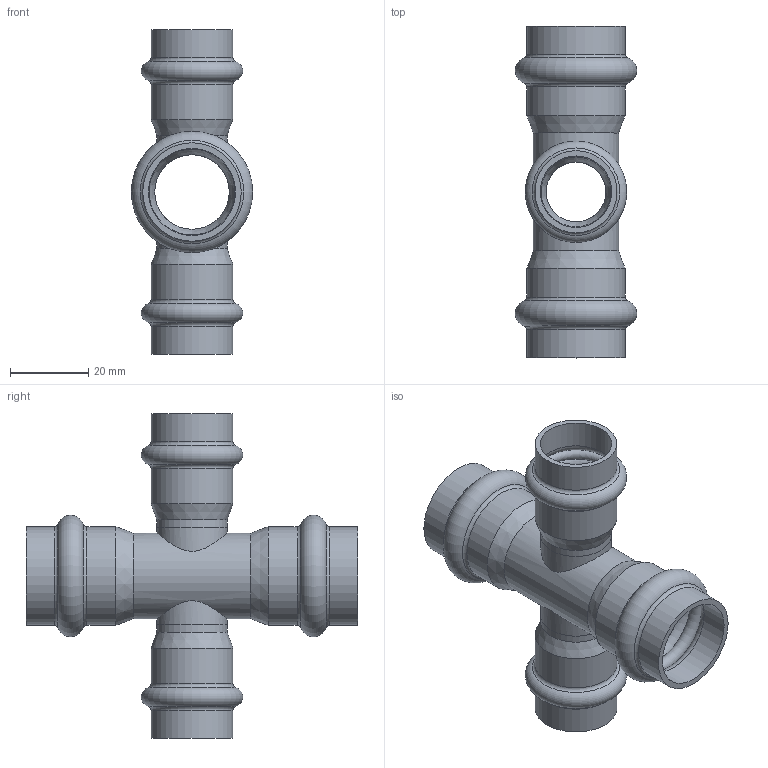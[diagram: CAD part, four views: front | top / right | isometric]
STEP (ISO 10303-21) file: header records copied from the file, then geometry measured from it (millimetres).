
FILE_DESCRIPTION(('STEP AP203'), '1');
FILE_NAME('ÂÐ.302669.009.000 ÑÁ - VTi.941.I.002218 Êðåñò. Äó22-18', '2024-02-29T12:43:00', ('User'), ('Vesta'), 'C3D Converter', 'C3D Toolkit', '');
FILE_SCHEMA(('CONFIG_CONTROL_DESIGN'));
Length unit declared in the file: millimetre
Products named in the file (5): ВР.302669.009.000 СБ; ВР.735542.007-02; ВР.735542.002
Assembly tree (7 placements, depth 2):
  ВР.302669.009.000 СБ
    ВР.735542.007-02
    ВР.735542.002  x2
    (unnamed)  x2
    (unnamed)  x2
Bounding box: 31.1 x 85 x 83 mm (x, y, z)
Volume: 17071.2 mm3; surface area: 24545.7 mm2
Topology: 7 solids, 7 shells, 70 faces, 138 edges, 74 vertices
Faces by surface type: torus 28, cylinder 26, plane 8, cone 8
Full cylindrical faces by diameter (mm): 15.3 x4, 18 x4, 18.3 x4, 19.1 x1, 21 x4, 22 x1, 22.3 x4, 25.2 x4
Entity records: 2838 total; most frequent: CARTESIAN_POINT 1168, DIRECTION 216, AXIS2_PLACEMENT_3D 108, ORIENTED_EDGE 108, EDGE_LOOP 104, FACE_OUTER_BOUND 86, COLOUR_RGB 56, FILL_AREA_STYLE_COLOUR 56
